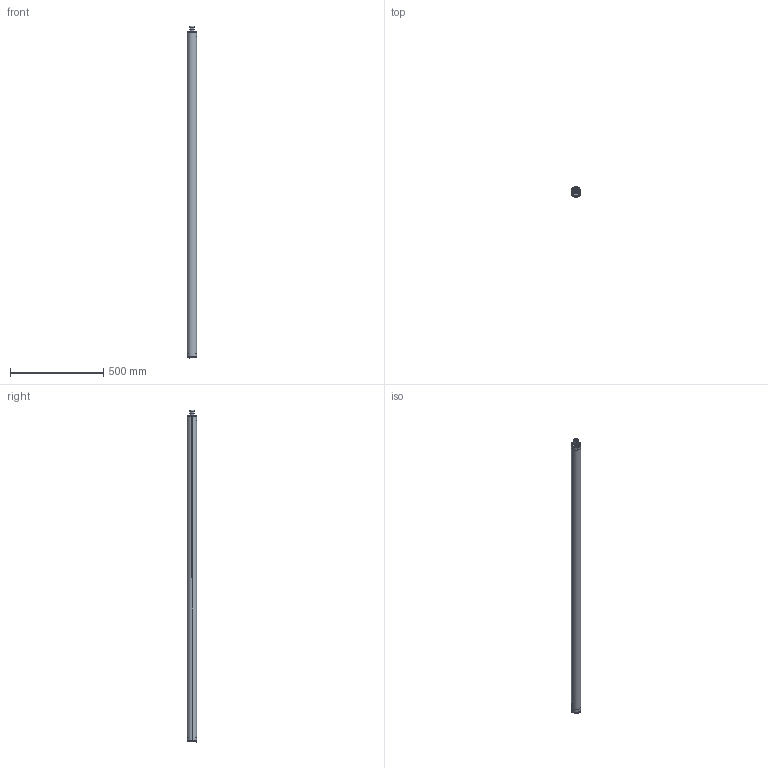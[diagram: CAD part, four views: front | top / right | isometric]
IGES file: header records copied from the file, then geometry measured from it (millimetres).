
Start section: SolidWorks IGES file using analytic representation for surfaces
Global section: file name: C:\Users\JoãoSantos\Desktop\02_3D.2D\01_2020\02_Linear\02_Tubo\01_Tubo_50\Normal\TUBO_50_1752.IGS; native system: SolidWorks 2020; preprocessor: SolidWorks 2020; author: JoãoSantos; date: 201020.170857; units: millimetre
Bounding box: 53 x 53 x 1784.7 mm (x, y, z)
Surface area: 568001.1 mm2 (no closed solid volume)
Topology: 0 solids, 0 shells, 1394 faces, 12360 edges, 12300 vertices
Faces by surface type: revolution 740, bspline 654
